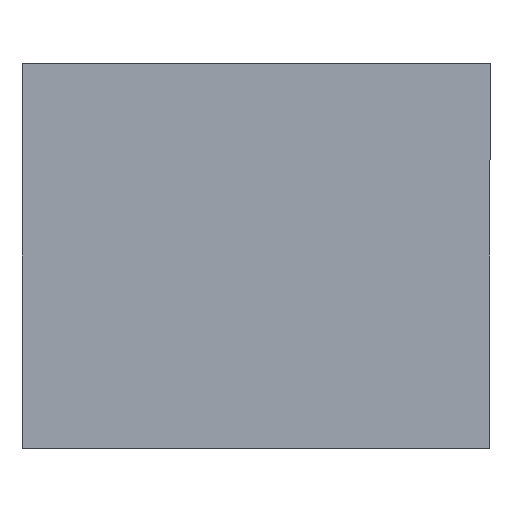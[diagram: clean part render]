
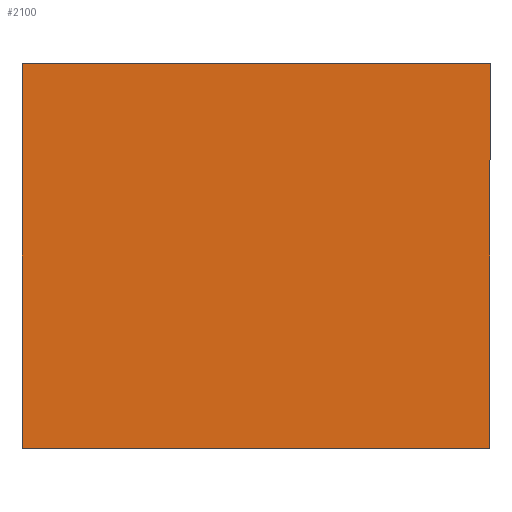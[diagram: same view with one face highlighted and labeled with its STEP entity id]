
A CAD part, front view. The second image highlights one B-rep face of the part: STEP entity #2100.
In plain terms, the highlighted planar face has unit normal (0, -1, 0).
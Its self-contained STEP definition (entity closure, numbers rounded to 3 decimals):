
#97 = CARTESIAN_POINT ( 'NONE',  ( -23.628, -8.053, -0.3 ) ) ;
#116 = LINE ( 'NONE', #97, #1824 ) ;
#155 = ORIENTED_EDGE ( 'NONE', *, *, #1759, .F. ) ;
#223 = VECTOR ( 'NONE', #2617, 1000. ) ;
#443 = ORIENTED_EDGE ( 'NONE', *, *, #2286, .F. ) ;
#557 = CARTESIAN_POINT ( 'NONE',  ( -23.628, -8.053, 21.798 ) ) ;
#669 = AXIS2_PLACEMENT_3D ( 'NONE', #2821, #1150, #2303 ) ;
#721 = VECTOR ( 'NONE', #2696, 1000. ) ;
#843 = LINE ( 'NONE', #1489, #721 ) ;
#1150 = DIRECTION ( 'NONE',  ( 0., 1., 0. ) ) ;
#1177 = VERTEX_POINT ( 'NONE', #2496 ) ;
#1244 = ORIENTED_EDGE ( 'NONE', *, *, #1870, .F. ) ;
#1321 = CARTESIAN_POINT ( 'NONE',  ( 3.296, -8.053, -0.3 ) ) ;
#1386 = VERTEX_POINT ( 'NONE', #1321 ) ;
#1388 = FACE_OUTER_BOUND ( 'NONE', #2789, .T. ) ;
#1408 = LINE ( 'NONE', #2393, #223 ) ;
#1489 = CARTESIAN_POINT ( 'NONE',  ( -23.628, -8.053, -0.3 ) ) ;
#1538 = DIRECTION ( 'NONE',  ( -1., 0., 0. ) ) ;
#1684 = ORIENTED_EDGE ( 'NONE', *, *, #2799, .F. ) ;
#1759 = EDGE_CURVE ( 'NONE', #2417, #1836, #2019, .T. ) ;
#1824 = VECTOR ( 'NONE', #1538, 1000. ) ;
#1836 = VERTEX_POINT ( 'NONE', #2267 ) ;
#1870 = EDGE_CURVE ( 'NONE', #1836, #1386, #1408, .T. ) ;
#2019 = LINE ( 'NONE', #557, #2150 ) ;
#2070 = PLANE ( 'NONE',  #669 ) ;
#2100 = ADVANCED_FACE ( 'NONE', ( #1388 ), #2070, .F. ) ;
#2150 = VECTOR ( 'NONE', #2250, 1000. ) ;
#2250 = DIRECTION ( 'NONE',  ( 1., 0., 0. ) ) ;
#2267 = CARTESIAN_POINT ( 'NONE',  ( 3.296, -8.053, 21.798 ) ) ;
#2286 = EDGE_CURVE ( 'NONE', #1177, #2417, #843, .T. ) ;
#2303 = DIRECTION ( 'NONE',  ( 0., 0., 1. ) ) ;
#2393 = CARTESIAN_POINT ( 'NONE',  ( 3.296, -8.053, -0.3 ) ) ;
#2417 = VERTEX_POINT ( 'NONE', #3020 ) ;
#2496 = CARTESIAN_POINT ( 'NONE',  ( -23.628, -8.053, -0.3 ) ) ;
#2617 = DIRECTION ( 'NONE',  ( 0., 0., -1. ) ) ;
#2696 = DIRECTION ( 'NONE',  ( 0., 0., 1. ) ) ;
#2789 = EDGE_LOOP ( 'NONE', ( #443, #1684, #1244, #155 ) ) ;
#2799 = EDGE_CURVE ( 'NONE', #1386, #1177, #116, .T. ) ;
#2821 = CARTESIAN_POINT ( 'NONE',  ( -23.628, -8.053, 21.798 ) ) ;
#3020 = CARTESIAN_POINT ( 'NONE',  ( -23.628, -8.053, 21.798 ) ) ;
